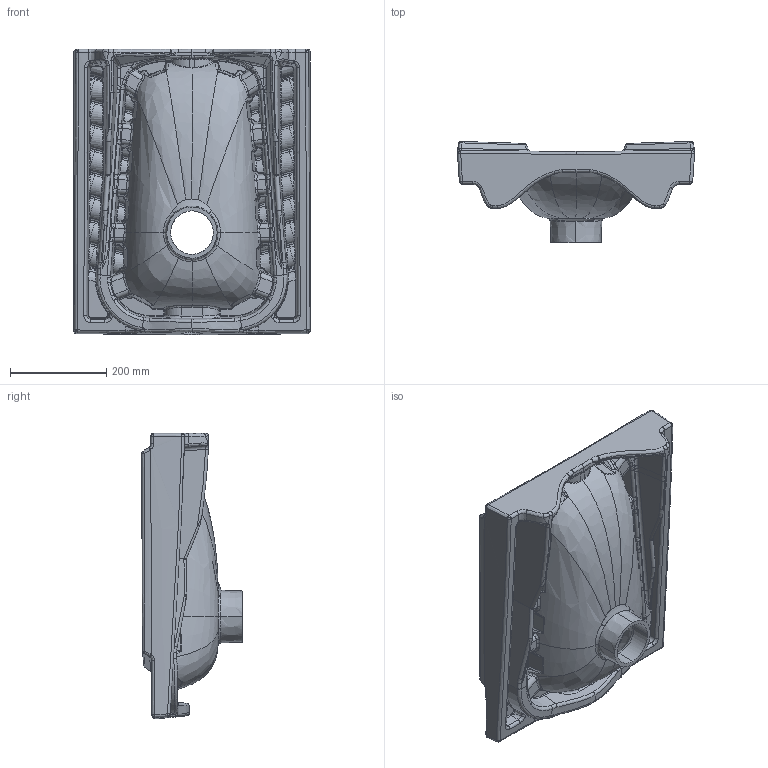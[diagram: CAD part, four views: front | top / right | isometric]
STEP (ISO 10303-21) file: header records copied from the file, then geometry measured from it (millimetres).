
FILE_DESCRIPTION (( 'STEP AP203' ), '1' );
FILE_NAME ('TP570-00CB00E-0000.STEP', '2023-01-23T11:50:14', ( '' ), ( '' ), 'SwSTEP 2.0', 'SolidWorks 2021', '' );
FILE_SCHEMA (( 'CONFIG_CONTROL_DESIGN' ));
Products named in the file (1): TP570-00CB00E-0000
Bounding box: 490 x 208.76 x 591.75 mm (x, y, z)
Volume: 12549470.1 mm3; surface area: 1126583.8 mm2
Topology: 1 solids, 1 shells, 1540 faces, 3695 edges, 2074 vertices
Faces by surface type: bspline 1342, cylinder 107, plane 85, cone 6
Entity records: 163485 total; most frequent: CARTESIAN_POINT 139333, ORIENTED_EDGE 7226, EDGE_CURVE 3613, VERTEX_POINT 2074, B_SPLINE_CURVE_WITH_KNOTS 2057, DIRECTION 2054, EDGE_LOOP 1541, FACE_OUTER_BOUND 1540
